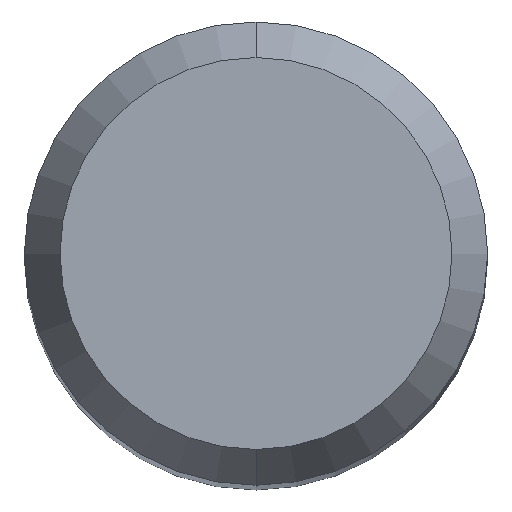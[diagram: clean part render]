
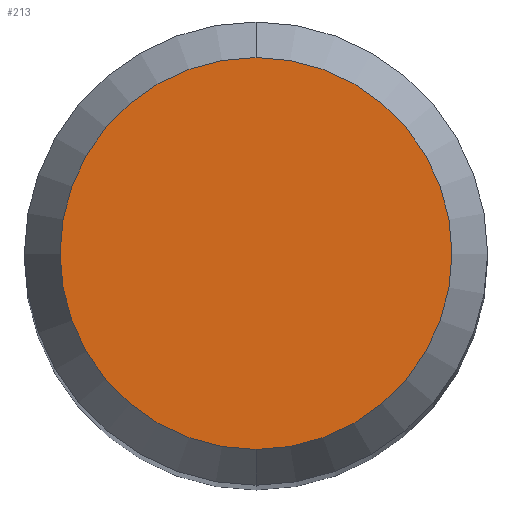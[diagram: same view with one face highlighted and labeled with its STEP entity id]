
A CAD part, top view. The second image highlights one B-rep face of the part: STEP entity #213.
In plain terms, the highlighted planar face has unit normal (0, 0, 1).
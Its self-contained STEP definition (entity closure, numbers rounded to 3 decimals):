
#213=ADVANCED_FACE('',(#510),#511,.T.);
#219=VERTEX_POINT('',#517);
#221=VERTEX_POINT('',#519);
#255=EDGE_CURVE('',#221,#219,#554,.T.);
#371=EDGE_CURVE('',#219,#221,#682,.T.);
#510=FACE_OUTER_BOUND('',#935,.T.);
#511=PLANE('',#936);
#517=CARTESIAN_POINT('',(0.0,2.538,0.0));
#519=CARTESIAN_POINT('',(0.,-2.538,0.0));
#554=CIRCLE('',#1006,2.538);
#682=CIRCLE('',#1215,2.538);
#935=EDGE_LOOP('',(#1439,#1440));
#936=AXIS2_PLACEMENT_3D('',#1441,#1442,#1443);
#1006=AXIS2_PLACEMENT_3D('',#1461,#1462,#1463);
#1215=AXIS2_PLACEMENT_3D('',#1616,#1617,#1618);
#1439=ORIENTED_EDGE('',*,*,#371,.F.);
#1440=ORIENTED_EDGE('',*,*,#255,.F.);
#1441=CARTESIAN_POINT('',(0.0,1.269,0.0));
#1442=DIRECTION('',(-0.0,0.0,1.0));
#1443=DIRECTION('',(0.0,-1.0,0.0));
#1461=CARTESIAN_POINT('',(0.0,0.0,0.0));
#1462=DIRECTION('',(0.0,0.0,-1.0));
#1463=DIRECTION('',(0.0,1.0,0.0));
#1616=CARTESIAN_POINT('',(0.0,0.0,0.0));
#1617=DIRECTION('',(0.0,0.0,-1.0));
#1618=DIRECTION('',(0.0,1.0,0.0));
